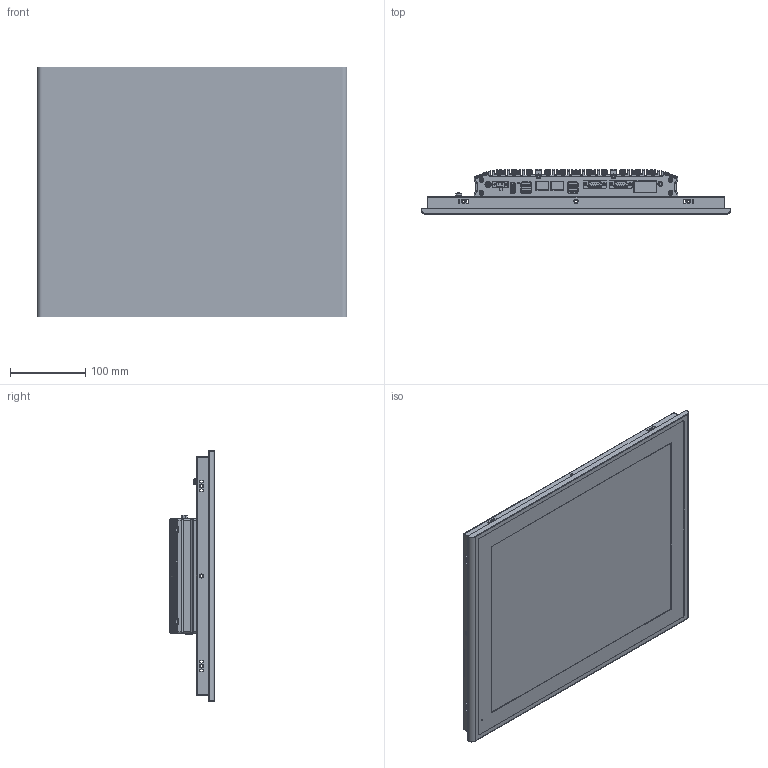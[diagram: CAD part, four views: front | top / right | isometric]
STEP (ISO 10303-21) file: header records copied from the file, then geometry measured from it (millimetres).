
FILE_DESCRIPTION((''),'2;1');
FILE_NAME('FPM-1700-20250228','2025-08-02T23:04:49',('anthony'),(''),'CREO PARAMETRIC BY PTC INC, 2024063','CREO PARAMETRIC BY PTC INC, 2024063','');
FILE_SCHEMA(('CONFIG_CONTROL_DESIGN','SHAPE_APPEARANCE_LAYERS_GROUPS'));
Products named in the file (1): FPM-1700-20250228
Bounding box: 412.66 x 59.78 x 333.76 mm (x, y, z)
Volume: 1137695.8 mm3; surface area: 1165369.9 mm2
Topology: 25 solids, 57 shells, 6556 faces, 20776 edges, 14397 vertices
Faces by surface type: plane 3592, cylinder 2606, cone 186, torus 92, bspline 62, sphere 14, revolution 4
Entity records: 288874 total; most frequent: CARTESIAN_POINT 54333, ORIENTED_EDGE 41281, DIRECTION 38090, EDGE_CURVE 20734, VERTEX_POINT 14398, PRESENTATION_STYLE_ASSIGNMENT 13928, STYLED_ITEM 13562, AXIS2_PLACEMENT_3D 13068
